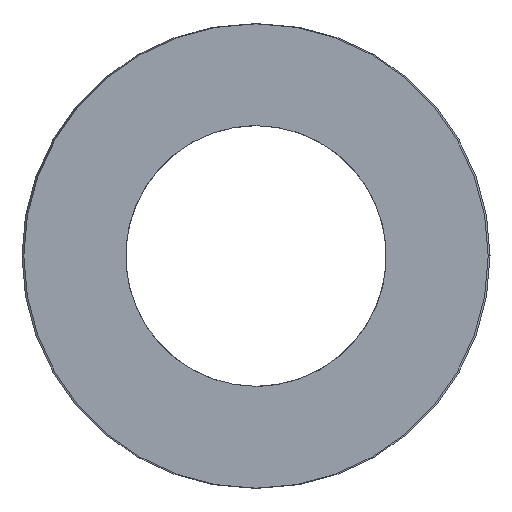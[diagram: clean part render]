
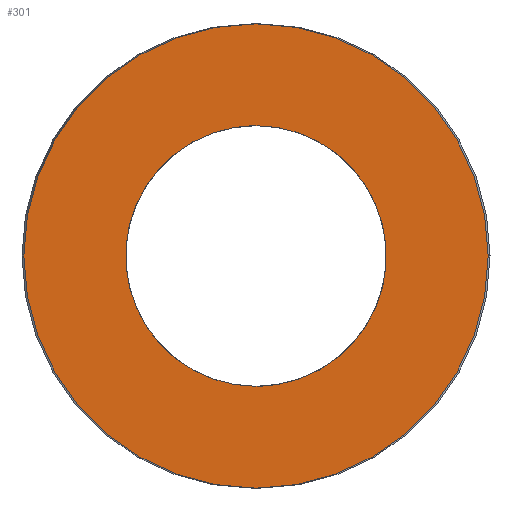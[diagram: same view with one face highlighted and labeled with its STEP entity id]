
A CAD part, left-side view. The second image highlights one B-rep face of the part: STEP entity #301.
In plain terms, the highlighted planar face has unit normal (-1, 0, 0).
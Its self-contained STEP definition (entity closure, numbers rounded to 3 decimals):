
#63=CARTESIAN_POINT('Vertex',(0.,15.5,0.)) ;
#77=CARTESIAN_POINT('Vertex',(0.,-15.5,0.)) ;
#80=CARTESIAN_POINT('Axis2P3D Location',(0.,0.,0.)) ;
#97=CARTESIAN_POINT('Axis2P3D Location',(0.,0.,0.)) ;
#232=CARTESIAN_POINT('Axis2P3D Location',(0.,7.75,0.)) ;
#242=CARTESIAN_POINT('Control Point',(0.,0.,-8.7)) ;
#243=CARTESIAN_POINT('Control Point',(0.,0.867,-8.7)) ;
#244=CARTESIAN_POINT('Control Point',(0.,1.734,-8.592)) ;
#245=CARTESIAN_POINT('Control Point',(0.,2.583,-8.376)) ;
#246=CARTESIAN_POINT('Control Point',(0.,4.209,-7.737)) ;
#247=CARTESIAN_POINT('Control Point',(0.,5.629,-6.719)) ;
#248=CARTESIAN_POINT('Control Point',(0.,6.272,-6.123)) ;
#249=CARTESIAN_POINT('Control Point',(0.,7.395,-4.785)) ;
#250=CARTESIAN_POINT('Control Point',(0.,8.156,-3.211)) ;
#251=CARTESIAN_POINT('Control Point',(0.,8.436,-2.381)) ;
#252=CARTESIAN_POINT('Control Point',(0.,8.783,-0.669)) ;
#253=CARTESIAN_POINT('Control Point',(0.,8.699,1.077)) ;
#254=CARTESIAN_POINT('Control Point',(0.,8.548,1.94)) ;
#255=CARTESIAN_POINT('Control Point',(0.,8.034,3.61)) ;
#256=CARTESIAN_POINT('Control Point',(0.,7.127,5.103)) ;
#257=CARTESIAN_POINT('Control Point',(0.,6.581,5.789)) ;
#258=CARTESIAN_POINT('Control Point',(0.,5.332,7.011)) ;
#259=CARTESIAN_POINT('Control Point',(0.,3.821,7.888)) ;
#260=CARTESIAN_POINT('Control Point',(0.,3.015,8.231)) ;
#261=CARTESIAN_POINT('Control Point',(0.,1.918,8.541)) ;
#262=CARTESIAN_POINT('Control Point',(0.,0.793,8.67)) ;
#263=CARTESIAN_POINT('Control Point',(0.,0.529,8.69)) ;
#264=CARTESIAN_POINT('Control Point',(0.,0.264,8.7)) ;
#265=CARTESIAN_POINT('Control Point',(0.,0.,8.7)) ;
#266=CARTESIAN_POINT('Vertex',(0.,0.,-8.7)) ;
#268=CARTESIAN_POINT('Vertex',(0.,0.,8.7)) ;
#272=CARTESIAN_POINT('Control Point',(0.,0.,8.7)) ;
#273=CARTESIAN_POINT('Control Point',(0.,-0.867,8.7)) ;
#274=CARTESIAN_POINT('Control Point',(0.,-1.734,8.592)) ;
#275=CARTESIAN_POINT('Control Point',(0.,-2.583,8.376)) ;
#276=CARTESIAN_POINT('Control Point',(0.,-4.209,7.737)) ;
#277=CARTESIAN_POINT('Control Point',(0.,-5.629,6.719)) ;
#278=CARTESIAN_POINT('Control Point',(0.,-6.272,6.123)) ;
#279=CARTESIAN_POINT('Control Point',(0.,-7.395,4.785)) ;
#280=CARTESIAN_POINT('Control Point',(0.,-8.156,3.211)) ;
#281=CARTESIAN_POINT('Control Point',(0.,-8.436,2.381)) ;
#282=CARTESIAN_POINT('Control Point',(0.,-8.783,0.669)) ;
#283=CARTESIAN_POINT('Control Point',(0.,-8.699,-1.077)) ;
#284=CARTESIAN_POINT('Control Point',(0.,-8.548,-1.94)) ;
#285=CARTESIAN_POINT('Control Point',(0.,-8.034,-3.61)) ;
#286=CARTESIAN_POINT('Control Point',(0.,-7.127,-5.103)) ;
#287=CARTESIAN_POINT('Control Point',(0.,-6.581,-5.789)) ;
#288=CARTESIAN_POINT('Control Point',(0.,-5.332,-7.011)) ;
#289=CARTESIAN_POINT('Control Point',(0.,-3.821,-7.888)) ;
#290=CARTESIAN_POINT('Control Point',(0.,-3.015,-8.231)) ;
#291=CARTESIAN_POINT('Control Point',(0.,-1.918,-8.541)) ;
#292=CARTESIAN_POINT('Control Point',(0.,-0.793,-8.67)) ;
#293=CARTESIAN_POINT('Control Point',(0.,-0.529,-8.69)) ;
#294=CARTESIAN_POINT('Control Point',(0.,-0.264,-8.7)) ;
#295=CARTESIAN_POINT('Control Point',(0.,0.,-8.7)) ;
#81=DIRECTION('Axis2P3D Direction',(1.,-0.,0.)) ;
#98=DIRECTION('Axis2P3D Direction',(1.,-0.,0.)) ;
#233=DIRECTION('Axis2P3D Direction',(-1.,0.,0.)) ;
#234=DIRECTION('Axis2P3D XDirection',(0.,1.,0.)) ;
#82=AXIS2_PLACEMENT_3D('Circle Axis2P3D',#80,#81,$) ;
#99=AXIS2_PLACEMENT_3D('Circle Axis2P3D',#97,#98,$) ;
#235=AXIS2_PLACEMENT_3D('Plane Axis2P3D',#232,#233,#234) ;
#238=ORIENTED_EDGE('',*,*,#84,.T.) ;
#239=ORIENTED_EDGE('',*,*,#101,.T.) ;
#298=ORIENTED_EDGE('',*,*,#270,.T.) ;
#299=ORIENTED_EDGE('',*,*,#296,.T.) ;
#300=FACE_BOUND('',#297,.T.) ;
#301=ADVANCED_FACE('392-B32-102',(#240,#300),#236,.T.) ;
#241=B_SPLINE_CURVE_WITH_KNOTS('',5,(#242,#243,#244,#245,#246,#247,#248,#249,#250,#251,#252,#253,#254,#255,#256,#257,#258,#259,#260,#261,#262,#263,#264,#265),.UNSPECIFIED.,.F.,.U.,(6,3,3,3,3,3,3,6),(0.,6.131,12.261,18.392,24.522,30.653,36.783,38.652),.UNSPECIFIED.) ;
#271=B_SPLINE_CURVE_WITH_KNOTS('',5,(#272,#273,#274,#275,#276,#277,#278,#279,#280,#281,#282,#283,#284,#285,#286,#287,#288,#289,#290,#291,#292,#293,#294,#295),.UNSPECIFIED.,.F.,.U.,(6,3,3,3,3,3,3,6),(0.,6.131,12.261,18.392,24.522,30.653,36.783,38.652),.UNSPECIFIED.) ;
#83=CIRCLE('generated circle',#82,15.5) ;
#100=CIRCLE('generated circle',#99,15.5) ;
#84=EDGE_CURVE('',#64,#78,#83,.F.) ;
#101=EDGE_CURVE('',#78,#64,#100,.F.) ;
#270=EDGE_CURVE('',#267,#269,#241,.T.) ;
#296=EDGE_CURVE('',#269,#267,#271,.T.) ;
#237=EDGE_LOOP('',(#238,#239)) ;
#297=EDGE_LOOP('',(#298,#299)) ;
#240=FACE_OUTER_BOUND('',#237,.T.) ;
#236=PLANE('Plane',#235) ;
#64=VERTEX_POINT('',#63) ;
#78=VERTEX_POINT('',#77) ;
#267=VERTEX_POINT('',#266) ;
#269=VERTEX_POINT('',#268) ;
